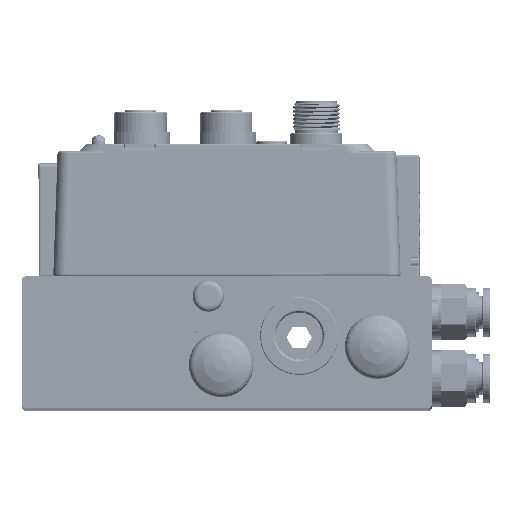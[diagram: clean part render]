
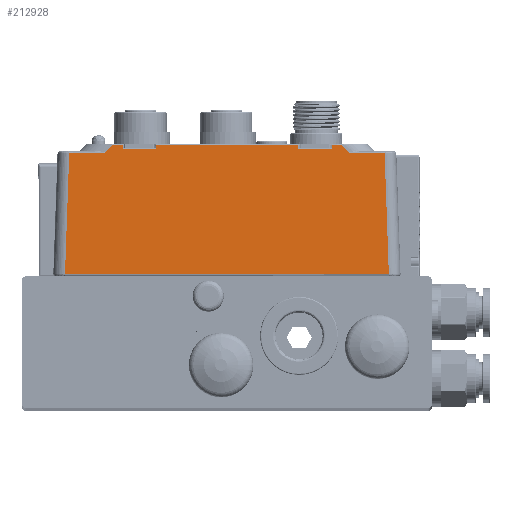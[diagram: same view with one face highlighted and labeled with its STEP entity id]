
A CAD part, top view. The second image highlights one B-rep face of the part: STEP entity #212928.
In plain terms, the highlighted planar face has unit normal (0, 0.026, 1).
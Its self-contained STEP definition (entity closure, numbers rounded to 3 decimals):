
#132079=LINE('',#685191,#161072);
#132080=LINE('',#685195,#161073);
#132082=LINE('',#685200,#161075);
#132085=LINE('',#685210,#161078);
#132086=LINE('',#685214,#161079);
#132088=LINE('',#685219,#161081);
#132090=LINE('',#685225,#161083);
#132091=LINE('',#685227,#161084);
#132092=LINE('',#685229,#161085);
#132093=LINE('',#685231,#161086);
#132094=LINE('',#685233,#161087);
#132121=LINE('',#685578,#161114);
#132144=LINE('',#685664,#161137);
#132145=LINE('',#685666,#161138);
#132146=LINE('',#685667,#161139);
#132147=LINE('',#685668,#161140);
#161072=VECTOR('',#560447,1.);
#161073=VECTOR('',#560452,1.);
#161075=VECTOR('',#560458,1.);
#161078=VECTOR('',#560467,1.);
#161079=VECTOR('',#560472,1.);
#161081=VECTOR('',#560478,1.);
#161083=VECTOR('',#560484,1.);
#161084=VECTOR('',#560487,1.);
#161085=VECTOR('',#560490,1.);
#161086=VECTOR('',#560493,1.);
#161087=VECTOR('',#560496,1.);
#161114=VECTOR('',#560561,1.);
#161137=VECTOR('',#560670,1.);
#161138=VECTOR('',#560671,1.);
#161139=VECTOR('',#560672,1.);
#161140=VECTOR('',#560673,1.);
#198903=PLANE('',#512114);
#212928=ADVANCED_FACE('',(#235874),#198903,.T.);
#235874=FACE_OUTER_BOUND('',#256473,.T.);
#256473=EDGE_LOOP('',(#308812,#308813,#308814,#308815,#308816,#308817,#308818,
#308819,#308820,#308821,#308822,#308823,#308824,#308825,#308826,#308827));
#308812=ORIENTED_EDGE('',*,*,#454523,.T.);
#308813=ORIENTED_EDGE('',*,*,#454524,.F.);
#308814=ORIENTED_EDGE('',*,*,#454431,.T.);
#308815=ORIENTED_EDGE('',*,*,#454430,.T.);
#308816=ORIENTED_EDGE('',*,*,#454429,.T.);
#308817=ORIENTED_EDGE('',*,*,#454428,.T.);
#308818=ORIENTED_EDGE('',*,*,#454427,.F.);
#308819=ORIENTED_EDGE('',*,*,#454480,.T.);
#308820=ORIENTED_EDGE('',*,*,#454525,.T.);
#308821=ORIENTED_EDGE('',*,*,#454424,.T.);
#308822=ORIENTED_EDGE('',*,*,#454421,.T.);
#308823=ORIENTED_EDGE('',*,*,#454419,.T.);
#308824=ORIENTED_EDGE('',*,*,#454526,.T.);
#308825=ORIENTED_EDGE('',*,*,#454414,.F.);
#308826=ORIENTED_EDGE('',*,*,#454411,.F.);
#308827=ORIENTED_EDGE('',*,*,#454409,.F.);
#417434=VERTEX_POINT('',#684614);
#417437=VERTEX_POINT('',#684677);
#417438=VERTEX_POINT('',#684691);
#417439=VERTEX_POINT('',#684703);
#417459=VERTEX_POINT('',#685077);
#417497=VERTEX_POINT('',#685190);
#417498=VERTEX_POINT('',#685192);
#417499=VERTEX_POINT('',#685196);
#417500=VERTEX_POINT('',#685201);
#417503=VERTEX_POINT('',#685209);
#417504=VERTEX_POINT('',#685211);
#417505=VERTEX_POINT('',#685215);
#417506=VERTEX_POINT('',#685220);
#417508=VERTEX_POINT('',#685234);
#417540=VERTEX_POINT('',#685577);
#417561=VERTEX_POINT('',#685665);
#454409=EDGE_CURVE('',#417497,#417498,#132079,.T.);
#454411=EDGE_CURVE('',#417498,#417499,#132080,.T.);
#454414=EDGE_CURVE('',#417499,#417500,#132082,.T.);
#454419=EDGE_CURVE('',#417504,#417503,#132085,.T.);
#454421=EDGE_CURVE('',#417505,#417504,#132086,.T.);
#454424=EDGE_CURVE('',#417506,#417505,#132088,.T.);
#454427=EDGE_CURVE('',#417459,#417434,#132090,.T.);
#454428=EDGE_CURVE('',#417437,#417434,#132091,.T.);
#454429=EDGE_CURVE('',#417438,#417437,#132092,.T.);
#454430=EDGE_CURVE('',#417439,#417438,#132093,.T.);
#454431=EDGE_CURVE('',#417508,#417439,#132094,.T.);
#454480=EDGE_CURVE('',#417459,#417540,#132121,.T.);
#454523=EDGE_CURVE('',#417497,#417561,#132144,.T.);
#454524=EDGE_CURVE('',#417508,#417561,#132145,.T.);
#454525=EDGE_CURVE('',#417540,#417506,#132146,.T.);
#454526=EDGE_CURVE('',#417503,#417500,#132147,.T.);
#512114=AXIS2_PLACEMENT_3D('',#685669,#560674,#560675);
#560447=DIRECTION('',(0.,-1.,0.026));
#560452=DIRECTION('',(1.,0.,0.));
#560458=DIRECTION('',(0.,1.,-0.026));
#560467=DIRECTION('',(0.,1.,-0.026));
#560472=DIRECTION('',(-1.,0.,0.));
#560478=DIRECTION('',(0.,-1.,0.026));
#560484=DIRECTION('',(1.,0.,0.));
#560487=DIRECTION('',(-0.035,0.999,-0.026));
#560490=DIRECTION('',(1.,0.,0.));
#560493=DIRECTION('',(-0.035,-0.999,0.026));
#560496=DIRECTION('',(-1.,0.,0.));
#560561=DIRECTION('',(-0.707,0.707,-0.019));
#560670=DIRECTION('',(-1.,0.,0.));
#560671=DIRECTION('',(0.707,0.707,-0.019));
#560672=DIRECTION('',(-1.,0.,0.));
#560673=DIRECTION('',(-1.,0.,0.));
#560674=DIRECTION('',(0.,0.026,1.));
#560675=DIRECTION('',(0.,-1.,0.026));
#684614=CARTESIAN_POINT('',(40.394,31.708,59.42));
#684677=CARTESIAN_POINT('',(41.483,0.51,60.237));
#684691=CARTESIAN_POINT('',(-41.483,0.51,60.237));
#684703=CARTESIAN_POINT('',(-40.394,31.708,59.42));
#685077=CARTESIAN_POINT('',(31.275,31.708,59.42));
#685190=CARTESIAN_POINT('',(-26.727,33.708,59.368));
#685191=CARTESIAN_POINT('',(-26.727,34.139,59.357));
#685192=CARTESIAN_POINT('',(-26.727,32.708,59.394));
#685195=CARTESIAN_POINT('',(-57.913,32.708,59.394));
#685196=CARTESIAN_POINT('',(-18.127,32.708,59.394));
#685200=CARTESIAN_POINT('',(-18.127,32.708,59.394));
#685201=CARTESIAN_POINT('',(-18.127,33.708,59.368));
#685209=CARTESIAN_POINT('',(18.273,33.708,59.368));
#685210=CARTESIAN_POINT('',(18.273,34.139,59.357));
#685211=CARTESIAN_POINT('',(18.273,32.708,59.394));
#685214=CARTESIAN_POINT('',(-12.913,32.708,59.394));
#685215=CARTESIAN_POINT('',(26.873,32.708,59.394));
#685219=CARTESIAN_POINT('',(26.873,32.708,59.394));
#685220=CARTESIAN_POINT('',(26.873,33.708,59.368));
#685225=CARTESIAN_POINT('',(-16.413,31.708,59.42));
#685227=CARTESIAN_POINT('',(40.244,35.99,59.308));
#685229=CARTESIAN_POINT('',(-16.413,0.51,60.237));
#685231=CARTESIAN_POINT('',(-40.244,35.99,59.308));
#685233=CARTESIAN_POINT('',(16.413,31.708,59.42));
#685234=CARTESIAN_POINT('',(-31.275,31.708,59.42));
#685577=CARTESIAN_POINT('',(29.275,33.708,59.368));
#685578=CARTESIAN_POINT('',(6.295,56.688,58.766));
#685664=CARTESIAN_POINT('',(-16.413,33.708,59.368));
#685665=CARTESIAN_POINT('',(-29.275,33.708,59.368));
#685666=CARTESIAN_POINT('',(-6.295,56.688,58.766));
#685667=CARTESIAN_POINT('',(-16.413,33.708,59.368));
#685668=CARTESIAN_POINT('',(-16.413,33.708,59.368));
#685669=CARTESIAN_POINT('',(-16.413,33.995,59.36));
